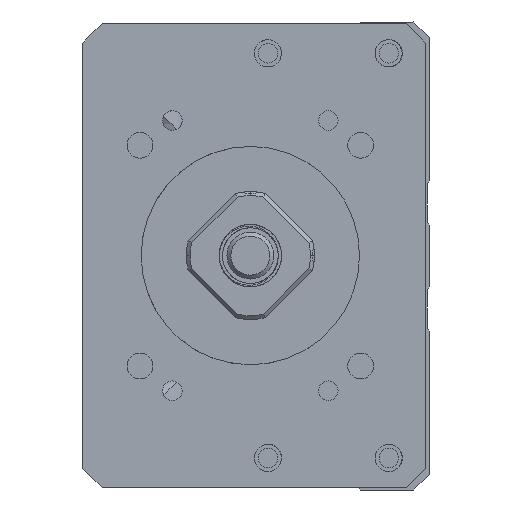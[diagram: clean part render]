
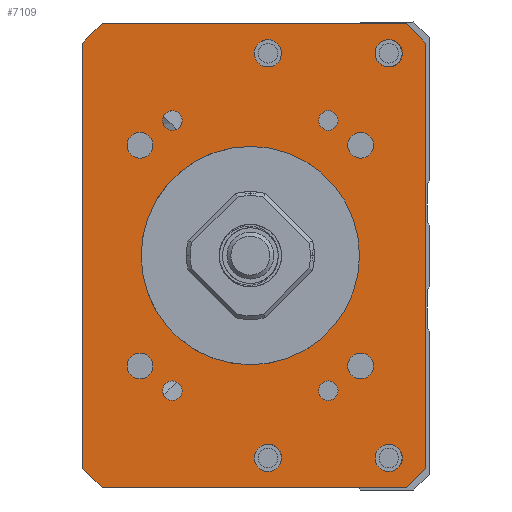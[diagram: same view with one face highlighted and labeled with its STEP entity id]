
A CAD part, left-side view. The second image highlights one B-rep face of the part: STEP entity #7109.
In plain terms, the highlighted planar face has unit normal (-1, 0, 0).
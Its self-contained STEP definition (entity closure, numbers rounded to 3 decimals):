
#4257=CIRCLE('',#14047,14.);
#4266=CIRCLE('',#14058,1.65);
#4267=CIRCLE('',#14059,1.65);
#4268=CIRCLE('',#14060,1.65);
#4269=CIRCLE('',#14061,1.65);
#4270=CIRCLE('',#14062,1.25);
#4271=CIRCLE('',#14063,1.75);
#4272=CIRCLE('',#14064,1.25);
#4273=CIRCLE('',#14065,1.75);
#4274=CIRCLE('',#14066,1.25);
#4275=CIRCLE('',#14067,1.75);
#4276=CIRCLE('',#14068,1.75);
#4277=CIRCLE('',#14069,1.25);
#4697=PLANE('',#14070);
#5486=LINE('',#18119,#6293);
#5488=LINE('',#18143,#6295);
#5489=LINE('',#18145,#6296);
#5490=LINE('',#18147,#6297);
#5491=LINE('',#18149,#6298);
#5492=LINE('',#18151,#6299);
#5493=LINE('',#18153,#6300);
#5494=LINE('',#18155,#6301);
#6293=VECTOR('',#15184,1.);
#6295=VECTOR('',#15208,1.);
#6296=VECTOR('',#15209,1.);
#6297=VECTOR('',#15210,1.);
#6298=VECTOR('',#15211,1.);
#6299=VECTOR('',#15212,1.);
#6300=VECTOR('',#15213,1.);
#6301=VECTOR('',#15214,1.);
#7109=ADVANCED_FACE('',(#7869,#7870,#7871,#7872,#7873,#7874,#7875,#7876,
#7877,#7878,#7879,#7880,#7881,#7882),#4697,.F.);
#7869=FACE_BOUND('',#8288,.T.);
#7870=FACE_BOUND('',#8289,.T.);
#7871=FACE_BOUND('',#8290,.T.);
#7872=FACE_BOUND('',#8291,.T.);
#7873=FACE_BOUND('',#8292,.T.);
#7874=FACE_BOUND('',#8293,.T.);
#7875=FACE_BOUND('',#8294,.T.);
#7876=FACE_BOUND('',#8295,.T.);
#7877=FACE_BOUND('',#8296,.T.);
#7878=FACE_BOUND('',#8297,.T.);
#7879=FACE_BOUND('',#8298,.T.);
#7880=FACE_BOUND('',#8299,.T.);
#7881=FACE_BOUND('',#8300,.T.);
#7882=FACE_BOUND('',#8301,.T.);
#8288=EDGE_LOOP('',(#9228));
#8289=EDGE_LOOP('',(#9229));
#8290=EDGE_LOOP('',(#9230));
#8291=EDGE_LOOP('',(#9231));
#8292=EDGE_LOOP('',(#9232));
#8293=EDGE_LOOP('',(#9233));
#8294=EDGE_LOOP('',(#9234));
#8295=EDGE_LOOP('',(#9235));
#8296=EDGE_LOOP('',(#9236));
#8297=EDGE_LOOP('',(#9237,#9238,#9239,#9240,#9241,#9242,#9243,#9244));
#8298=EDGE_LOOP('',(#9245));
#8299=EDGE_LOOP('',(#9246));
#8300=EDGE_LOOP('',(#9247));
#8301=EDGE_LOOP('',(#9248));
#9228=ORIENTED_EDGE('',*,*,#12681,.F.);
#9229=ORIENTED_EDGE('',*,*,#12682,.F.);
#9230=ORIENTED_EDGE('',*,*,#12683,.F.);
#9231=ORIENTED_EDGE('',*,*,#12684,.F.);
#9232=ORIENTED_EDGE('',*,*,#12685,.F.);
#9233=ORIENTED_EDGE('',*,*,#12686,.T.);
#9234=ORIENTED_EDGE('',*,*,#12687,.F.);
#9235=ORIENTED_EDGE('',*,*,#12688,.F.);
#9236=ORIENTED_EDGE('',*,*,#12689,.F.);
#9237=ORIENTED_EDGE('',*,*,#12678,.T.);
#9238=ORIENTED_EDGE('',*,*,#12690,.T.);
#9239=ORIENTED_EDGE('',*,*,#12691,.F.);
#9240=ORIENTED_EDGE('',*,*,#12692,.T.);
#9241=ORIENTED_EDGE('',*,*,#12693,.F.);
#9242=ORIENTED_EDGE('',*,*,#12694,.T.);
#9243=ORIENTED_EDGE('',*,*,#12695,.T.);
#9244=ORIENTED_EDGE('',*,*,#12696,.T.);
#9245=ORIENTED_EDGE('',*,*,#12697,.F.);
#9246=ORIENTED_EDGE('',*,*,#12698,.F.);
#9247=ORIENTED_EDGE('',*,*,#12699,.F.);
#9248=ORIENTED_EDGE('',*,*,#12658,.F.);
#11709=VERTEX_POINT('',#18042);
#11729=VERTEX_POINT('',#18118);
#11730=VERTEX_POINT('',#18120);
#11732=VERTEX_POINT('',#18126);
#11733=VERTEX_POINT('',#18128);
#11734=VERTEX_POINT('',#18130);
#11735=VERTEX_POINT('',#18132);
#11736=VERTEX_POINT('',#18134);
#11737=VERTEX_POINT('',#18136);
#11738=VERTEX_POINT('',#18138);
#11739=VERTEX_POINT('',#18140);
#11740=VERTEX_POINT('',#18142);
#11741=VERTEX_POINT('',#18144);
#11742=VERTEX_POINT('',#18146);
#11743=VERTEX_POINT('',#18148);
#11744=VERTEX_POINT('',#18150);
#11745=VERTEX_POINT('',#18152);
#11746=VERTEX_POINT('',#18154);
#11747=VERTEX_POINT('',#18157);
#11748=VERTEX_POINT('',#18159);
#11749=VERTEX_POINT('',#18161);
#12658=EDGE_CURVE('',#11709,#11709,#4257,.T.);
#12678=EDGE_CURVE('',#11730,#11729,#5486,.T.);
#12681=EDGE_CURVE('',#11732,#11732,#4266,.T.);
#12682=EDGE_CURVE('',#11733,#11733,#4267,.T.);
#12683=EDGE_CURVE('',#11734,#11734,#4268,.T.);
#12684=EDGE_CURVE('',#11735,#11735,#4269,.T.);
#12685=EDGE_CURVE('',#11736,#11736,#4270,.T.);
#12686=EDGE_CURVE('',#11737,#11737,#4271,.T.);
#12687=EDGE_CURVE('',#11738,#11738,#4272,.T.);
#12688=EDGE_CURVE('',#11739,#11739,#4273,.T.);
#12689=EDGE_CURVE('',#11740,#11740,#4274,.T.);
#12690=EDGE_CURVE('',#11729,#11741,#5488,.T.);
#12691=EDGE_CURVE('',#11742,#11741,#5489,.T.);
#12692=EDGE_CURVE('',#11742,#11743,#5490,.T.);
#12693=EDGE_CURVE('',#11744,#11743,#5491,.T.);
#12694=EDGE_CURVE('',#11744,#11745,#5492,.T.);
#12695=EDGE_CURVE('',#11745,#11746,#5493,.T.);
#12696=EDGE_CURVE('',#11746,#11730,#5494,.T.);
#12697=EDGE_CURVE('',#11747,#11747,#4275,.T.);
#12698=EDGE_CURVE('',#11748,#11748,#4276,.T.);
#12699=EDGE_CURVE('',#11749,#11749,#4277,.T.);
#14047=AXIS2_PLACEMENT_3D('',#18041,#15158,#15159);
#14058=AXIS2_PLACEMENT_3D('',#18125,#15190,#15191);
#14059=AXIS2_PLACEMENT_3D('',#18127,#15192,#15193);
#14060=AXIS2_PLACEMENT_3D('',#18129,#15194,#15195);
#14061=AXIS2_PLACEMENT_3D('',#18131,#15196,#15197);
#14062=AXIS2_PLACEMENT_3D('',#18133,#15198,#15199);
#14063=AXIS2_PLACEMENT_3D('',#18135,#15200,#15201);
#14064=AXIS2_PLACEMENT_3D('',#18137,#15202,#15203);
#14065=AXIS2_PLACEMENT_3D('',#18139,#15204,#15205);
#14066=AXIS2_PLACEMENT_3D('',#18141,#15206,#15207);
#14067=AXIS2_PLACEMENT_3D('',#18156,#15215,#15216);
#14068=AXIS2_PLACEMENT_3D('',#18158,#15217,#15218);
#14069=AXIS2_PLACEMENT_3D('',#18160,#15219,#15220);
#14070=AXIS2_PLACEMENT_3D('',#18162,#15221,#15222);
#15158=DIRECTION('',(-1.,0.,0.));
#15159=DIRECTION('',(0.,1.,0.));
#15184=DIRECTION('',(0.,0.,-1.));
#15190=DIRECTION('',(-1.,0.,0.));
#15191=DIRECTION('',(0.,0.,1.));
#15192=DIRECTION('',(-1.,0.,0.));
#15193=DIRECTION('',(0.,0.,1.));
#15194=DIRECTION('',(-1.,0.,0.));
#15195=DIRECTION('',(0.,0.,1.));
#15196=DIRECTION('',(-1.,0.,0.));
#15197=DIRECTION('',(0.,0.,1.));
#15198=DIRECTION('',(-1.,0.,0.));
#15199=DIRECTION('',(0.,1.,0.));
#15200=DIRECTION('',(1.,0.,0.));
#15201=DIRECTION('',(0.,0.,1.));
#15202=DIRECTION('',(-1.,0.,0.));
#15203=DIRECTION('',(0.,1.,0.));
#15204=DIRECTION('',(-1.,0.,0.));
#15205=DIRECTION('',(0.,0.,1.));
#15206=DIRECTION('',(-1.,0.,0.));
#15207=DIRECTION('',(0.,1.,0.));
#15208=DIRECTION('',(0.,-0.707,-0.707));
#15209=DIRECTION('',(0.,1.,0.));
#15210=DIRECTION('',(0.,-0.707,0.707));
#15211=DIRECTION('',(0.,0.,-1.));
#15212=DIRECTION('',(0.,0.707,0.707));
#15213=DIRECTION('',(0.,1.,0.));
#15214=DIRECTION('',(0.,0.707,-0.707));
#15215=DIRECTION('',(-1.,0.,0.));
#15216=DIRECTION('',(0.,0.,1.));
#15217=DIRECTION('',(-1.,0.,0.));
#15218=DIRECTION('',(0.,0.,1.));
#15219=DIRECTION('',(-1.,0.,0.));
#15220=DIRECTION('',(0.,1.,0.));
#15221=DIRECTION('',(1.,0.,0.));
#15222=DIRECTION('',(0.,-1.,0.));
#18041=CARTESIAN_POINT('',(-211.,0.,-400.));
#18042=CARTESIAN_POINT('',(-211.,14.,-400.));
#18118=CARTESIAN_POINT('',(-211.,21.499,-427.25));
#18119=CARTESIAN_POINT('',(-211.,21.499,-370.25));
#18120=CARTESIAN_POINT('',(-211.,21.499,-372.75));
#18125=CARTESIAN_POINT('',(-211.,14.142,-385.858));
#18126=CARTESIAN_POINT('',(-211.,14.142,-384.208));
#18127=CARTESIAN_POINT('',(-211.,-14.142,-385.858));
#18128=CARTESIAN_POINT('',(-211.,-14.142,-384.208));
#18129=CARTESIAN_POINT('',(-211.,14.142,-414.142));
#18130=CARTESIAN_POINT('',(-211.,14.142,-412.492));
#18131=CARTESIAN_POINT('',(-211.,-14.142,-414.142));
#18132=CARTESIAN_POINT('',(-211.,-14.142,-412.492));
#18133=CARTESIAN_POINT('',(-211.,-10.,-417.321));
#18134=CARTESIAN_POINT('',(-211.,-8.75,-417.321));
#18135=CARTESIAN_POINT('',(-211.,-2.25,-425.936));
#18136=CARTESIAN_POINT('',(-211.,-2.25,-424.186));
#18137=CARTESIAN_POINT('',(-211.,10.,-382.679));
#18138=CARTESIAN_POINT('',(-211.,11.25,-382.679));
#18139=CARTESIAN_POINT('',(-211.,-2.25,-374.064));
#18140=CARTESIAN_POINT('',(-211.,-2.25,-372.314));
#18141=CARTESIAN_POINT('',(-211.,10.,-417.321));
#18142=CARTESIAN_POINT('',(-211.,11.25,-417.321));
#18143=CARTESIAN_POINT('',(-211.,18.999,-429.75));
#18144=CARTESIAN_POINT('',(-211.,18.999,-429.75));
#18145=CARTESIAN_POINT('',(-211.,-22.501,-429.75));
#18146=CARTESIAN_POINT('',(-211.,-20.001,-429.75));
#18147=CARTESIAN_POINT('',(-211.,-22.501,-427.25));
#18148=CARTESIAN_POINT('',(-211.,-22.501,-427.25));
#18149=CARTESIAN_POINT('',(-211.,-22.501,-370.25));
#18150=CARTESIAN_POINT('',(-211.,-22.501,-372.75));
#18151=CARTESIAN_POINT('',(-211.,-22.501,-372.75));
#18152=CARTESIAN_POINT('',(-211.,-20.001,-370.25));
#18153=CARTESIAN_POINT('',(-211.,-22.501,-370.25));
#18154=CARTESIAN_POINT('',(-211.,18.999,-370.25));
#18155=CARTESIAN_POINT('',(-211.,18.999,-370.25));
#18156=CARTESIAN_POINT('',(-211.,-17.75,-374.064));
#18157=CARTESIAN_POINT('',(-211.,-17.75,-372.314));
#18158=CARTESIAN_POINT('',(-211.,-17.75,-425.936));
#18159=CARTESIAN_POINT('',(-211.,-17.75,-424.186));
#18160=CARTESIAN_POINT('',(-211.,-10.,-382.679));
#18161=CARTESIAN_POINT('',(-211.,-8.75,-382.679));
#18162=CARTESIAN_POINT('',(-211.,-22.501,-370.25));
